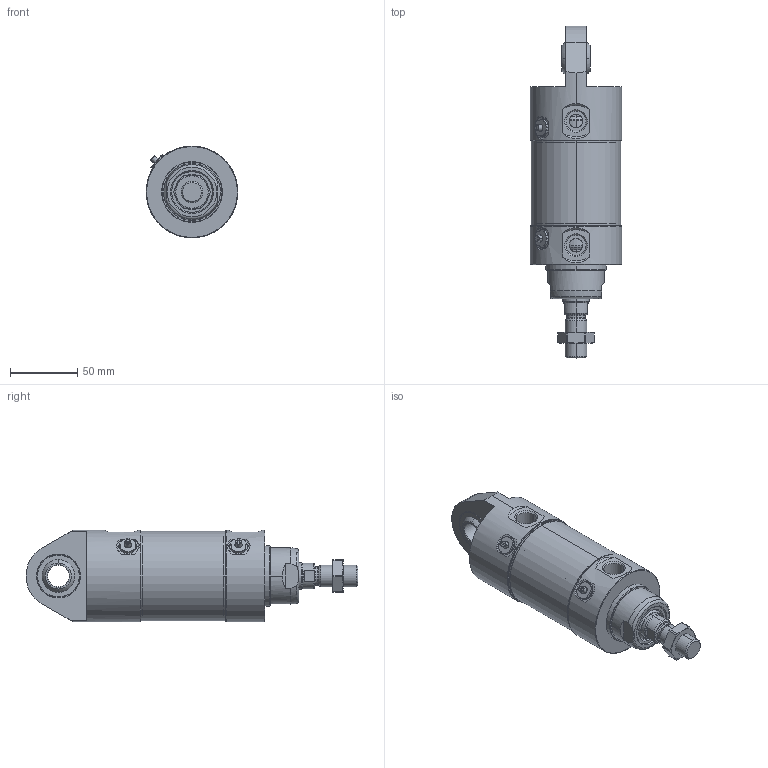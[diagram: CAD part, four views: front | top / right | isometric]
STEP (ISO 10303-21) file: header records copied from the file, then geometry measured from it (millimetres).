
FILE_DESCRIPTION(('STEP AP203'),'1');
FILE_NAME('86M63F0000 - course 0mm.stp','2022-06-09T07:22:34',(' '),(' '),'Spatial InterOp 3D',' ',' ');
FILE_SCHEMA(('CONFIG_CONTROL_DESIGN'));
Length unit declared in the file: metre
Products named in the file (37): 078464_oa_2; 881195_oa_3; 881195_oa_4; 881368 _32_oa_5; 881220 - Z8 63 PUR_oa_6; 881220 - Z8 63 PUR_oa_7; 881368 _32_oa_8; 881285 - 11.9x2.62 NBR_oa_9; 881206 - 63x58x9.7_oa_10; 881216_oa_11; 881194_oa_12; 86M63F0000 - course 0mm; 885423S_oa_14; 885423_oa_15; 885421 - Snodo 16-32-DIN ISO 12240; 079586_oa_13; 885424_oa_16; 880198 60.04x1.78_oa_17; 078197 - GA50-63_oa_18; 881683; 881684; 880274 - 9,25x1,78_oa_19; 038051 - 3,68x1,78; 882586; 079585_oa_20; 885422_oa_21; 881797; 881833; 060096 - 20-24-20; 881807; 885424_oa_22; 078197 - GA50-63_oa_23; 880198 60.04x1.78_oa_24; 880274 - 9,25x1,78_oa_25; 000681_oa_0; 000670_oa_1; 041464 - Dado M16x1.5 basso INOX
Assembly tree (40 placements, depth 4):
  86M63F0000 - course 0mm
    078464_oa_2
      881195_oa_3
      881195_oa_4
      881368 _32_oa_5
      881220 - Z8 63 PUR_oa_6
      881220 - Z8 63 PUR_oa_7
      881368 _32_oa_8
      881285 - 11.9x2.62 NBR_oa_9
      881206 - 63x58x9.7_oa_10
      881216_oa_11
      881194_oa_12
    079586_oa_13
      885423S_oa_14
        885423_oa_15
        885421 - Snodo 16-32-DIN ISO 12240
      885424_oa_16
      880198 60.04x1.78_oa_17
      078197 - GA50-63_oa_18
      881683
      881684
      880274 - 9,25x1,78_oa_19
      038051 - 3,68x1,78
      882586
    079585_oa_20
      885422_oa_21
      881797
      881684
      881833
      060096 - 20-24-20
      881807
      881683
      885424_oa_22
      078197 - GA50-63_oa_23
      880198 60.04x1.78_oa_24
      880274 - 9,25x1,78_oa_25
      038051 - 3,68x1,78
      882586
    000681_oa_0
    000670_oa_1
    041464 - Dado M16x1.5 basso INOX
Bounding box: 68 x 246 x 68 mm (x, y, z)
Volume: 494045.2 mm3; surface area: 183171.6 mm2
Topology: 36 solids, 36 shells, 1011 faces, 2208 edges, 1341 vertices
Faces by surface type: cone 348, cylinder 304, plane 221, torus 126, bspline 8, sphere 4
Entity records: 28241 total; most frequent: CARTESIAN_POINT 5529, DIRECTION 4947, ORIENTED_EDGE 3988, AXIS2_PLACEMENT_3D 2131, EDGE_CURVE 1994, VERTEX_POINT 1211, CIRCLE 1163, EDGE_LOOP 1037
